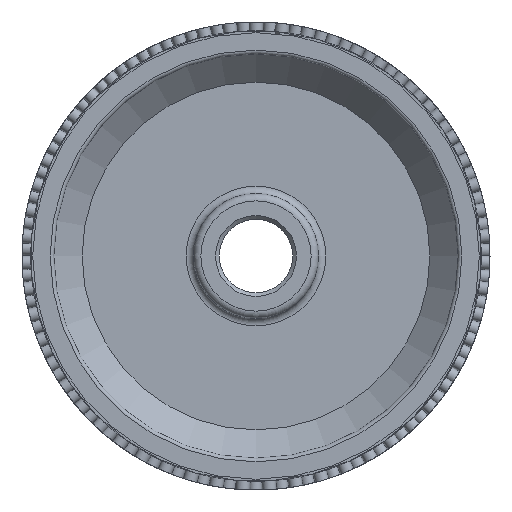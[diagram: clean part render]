
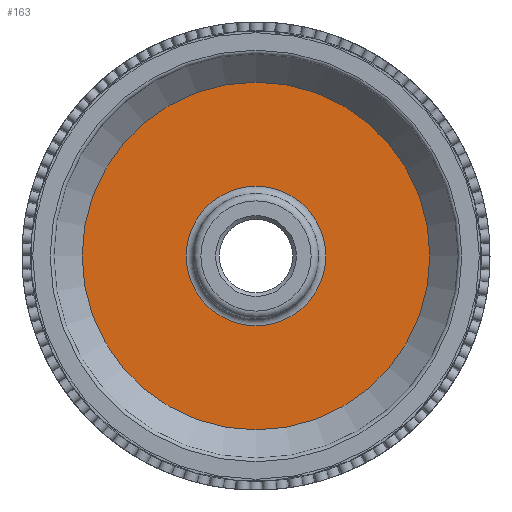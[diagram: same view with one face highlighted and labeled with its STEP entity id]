
A CAD part, front view. The second image highlights one B-rep face of the part: STEP entity #163.
In plain terms, the highlighted planar face has unit normal (0, -1, 0).
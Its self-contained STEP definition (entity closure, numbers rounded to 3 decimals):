
#163 = ADVANCED_FACE( '', ( #695, #696 ), #697, .F. );
#695 = FACE_BOUND( '', #2177, .T. );
#696 = FACE_OUTER_BOUND( '', #2178, .T. );
#697 = PLANE( '', #2179 );
#2177 = EDGE_LOOP( '', ( #3698 ) );
#2178 = EDGE_LOOP( '', ( #3699 ) );
#2179 = AXIS2_PLACEMENT_3D( '', #3700, #3701, #3702 );
#3698 = ORIENTED_EDGE( '', *, *, #6049, .T. );
#3699 = ORIENTED_EDGE( '', *, *, #6054, .T. );
#3700 = CARTESIAN_POINT( '', ( 0., 5.35, 23.65 ) );
#3701 = DIRECTION( '', ( 0., 1., 0. ) );
#3702 = DIRECTION( '', ( 0., 0., 1. ) );
#6049 = EDGE_CURVE( '', #6580, #6580, #6581, .T. );
#6054 = EDGE_CURVE( '', #6590, #6590, #6591, .T. );
#6580 = VERTEX_POINT( '', #7713 );
#6581 = CIRCLE( '', #7714, 9.5 );
#6590 = VERTEX_POINT( '', #7723 );
#6591 = CIRCLE( '', #7724, 23.65 );
#7713 = CARTESIAN_POINT( '', ( 0., 5.35, 9.5 ) );
#7714 = AXIS2_PLACEMENT_3D( '', #22348, #22349, #22350 );
#7723 = CARTESIAN_POINT( '', ( 0., 5.35, -23.65 ) );
#7724 = AXIS2_PLACEMENT_3D( '', #22363, #22364, #22365 );
#22348 = CARTESIAN_POINT( '', ( 0., 5.35, 0. ) );
#22349 = DIRECTION( '', ( 0., 1., 0. ) );
#22350 = DIRECTION( '', ( 0., 0., 1. ) );
#22363 = CARTESIAN_POINT( '', ( 0., 5.35, 0. ) );
#22364 = DIRECTION( '', ( 0., -1., 0. ) );
#22365 = DIRECTION( '', ( 0., 0., -1. ) );
